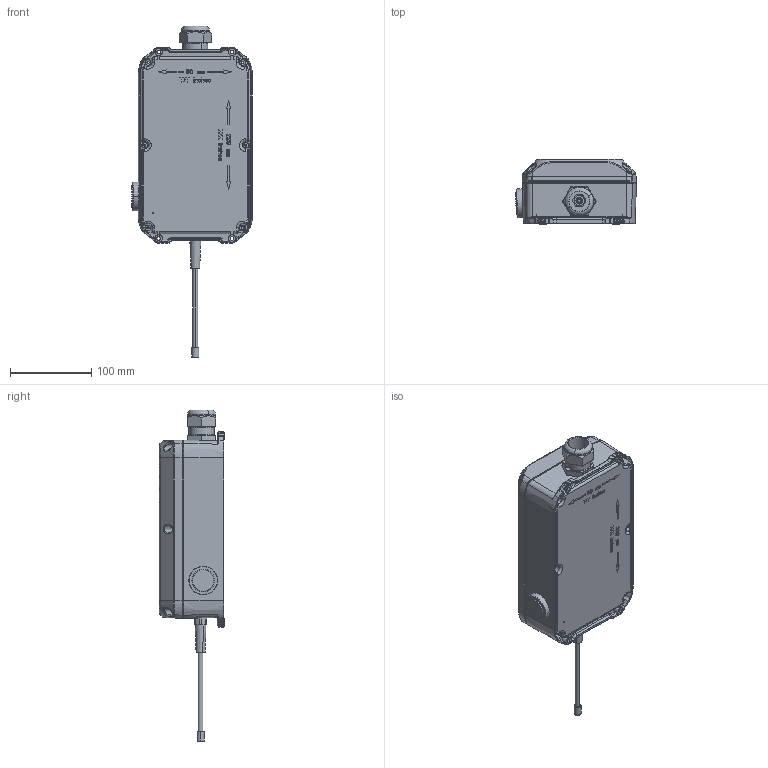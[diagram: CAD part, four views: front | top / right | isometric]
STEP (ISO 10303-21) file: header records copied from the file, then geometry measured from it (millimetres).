
FILE_DESCRIPTION (( 'STEP AP214' ), '1' );
FILE_NAME ('recepteur.STEP', '2024-01-11T14:19:49', ( 'Utilisateur Windows' ), ( '' ), 'SwSTEP 2.0', 'SolidWorks 2014', '' );
FILE_SCHEMA (( 'AUTOMOTIVE_DESIGN' ));
Length unit declared in the file: millimetre
Products named in the file (1): recepteur
Bounding box: 148.16 x 80 x 407.62 mm (x, y, z)
Volume: 486089.2 mm3; surface area: 286599.2 mm2
Topology: 9 solids, 9 shells, 2776 faces, 7517 edges, 4762 vertices
Faces by surface type: plane 1421, cylinder 564, bspline 388, cone 289, torus 99, sphere 15
Entity records: 134049 total; most frequent: CARTESIAN_POINT 43140, ORIENTED_EDGE 14842, DIRECTION 11781, EDGE_CURVE 7421, VERTEX_POINT 4762, VECTOR 4339, LINE 4339, AXIS2_PLACEMENT_3D 3721
